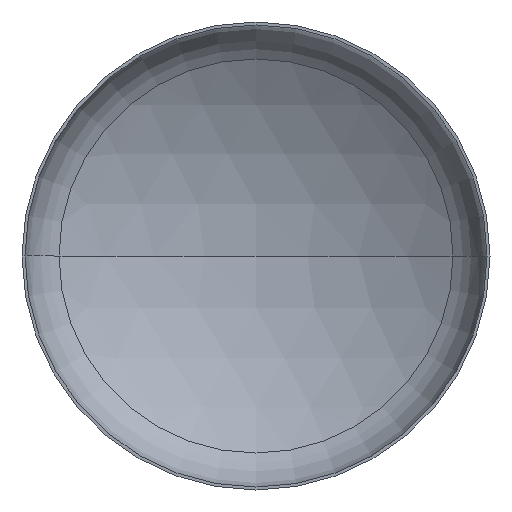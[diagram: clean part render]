
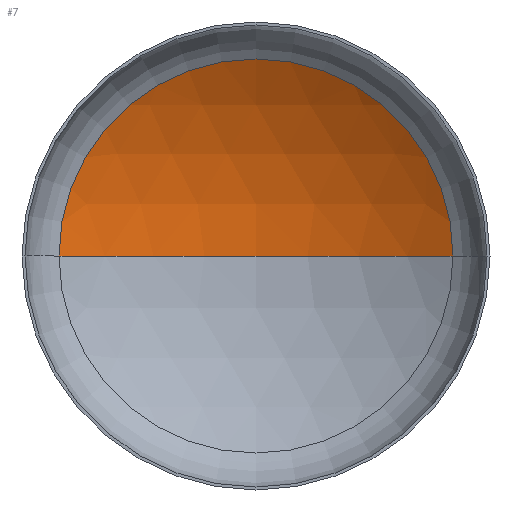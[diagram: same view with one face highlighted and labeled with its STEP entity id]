
A CAD part, front view. The second image highlights one B-rep face of the part: STEP entity #7.
In plain terms, the highlighted spherical face has radius 2400 mm.
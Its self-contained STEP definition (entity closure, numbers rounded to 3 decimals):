
#7 = ADVANCED_FACE ( 'NONE', ( #154 ), #120, .F. ) ;
#8 = CARTESIAN_POINT ( 'NONE',  ( 0., -1589.594, 0. ) ) ;
#23 = DIRECTION ( 'NONE',  ( 1., 0., 0. ) ) ;
#30 = ORIENTED_EDGE ( 'NONE', *, *, #129, .F. ) ;
#38 = CARTESIAN_POINT ( 'NONE',  ( 1263.093, 451.141, 0. ) ) ;
#40 = AXIS2_PLACEMENT_3D ( 'NONE', #231, #143, #165 ) ;
#43 = AXIS2_PLACEMENT_3D ( 'NONE', #8, #258, #201 ) ;
#44 = AXIS2_PLACEMENT_3D ( 'NONE', #391, #86, #23 ) ;
#58 = VERTEX_POINT ( 'NONE', #210 ) ;
#73 = EDGE_LOOP ( 'NONE', ( #30, #85, #347 ) ) ;
#80 = AXIS2_PLACEMENT_3D ( 'NONE', #219, #251, #248 ) ;
#85 = ORIENTED_EDGE ( 'NONE', *, *, #124, .T. ) ;
#86 = DIRECTION ( 'NONE',  ( 0., -1., 0. ) ) ;
#120 = SPHERICAL_SURFACE ( 'NONE', #80, 2400. ) ;
#123 = EDGE_CURVE ( 'NONE', #275, #58, #408, .T. ) ;
#124 = EDGE_CURVE ( 'NONE', #237, #275, #266, .T. ) ;
#129 = EDGE_CURVE ( 'NONE', #237, #58, #193, .T. ) ;
#143 = DIRECTION ( 'NONE',  ( 0., 0., 1. ) ) ;
#154 = FACE_OUTER_BOUND ( 'NONE', #73, .T. ) ;
#165 = DIRECTION ( 'NONE',  ( 1., 0., 0. ) ) ;
#193 = CIRCLE ( 'NONE', #40, 2400. ) ;
#199 = CARTESIAN_POINT ( 'NONE',  ( 0., 810.406, 0. ) ) ;
#201 = DIRECTION ( 'NONE',  ( -1., 0., 0. ) ) ;
#210 = CARTESIAN_POINT ( 'NONE',  ( -1263.093, 451.141, 0. ) ) ;
#219 = CARTESIAN_POINT ( 'NONE',  ( 0., -1589.594, 0. ) ) ;
#231 = CARTESIAN_POINT ( 'NONE',  ( 0., -1589.594, 0. ) ) ;
#237 = VERTEX_POINT ( 'NONE', #199 ) ;
#248 = DIRECTION ( 'NONE',  ( -1., 0., 0. ) ) ;
#251 = DIRECTION ( 'NONE',  ( 0., 0., -1. ) ) ;
#258 = DIRECTION ( 'NONE',  ( 0., 0., -1. ) ) ;
#266 = CIRCLE ( 'NONE', #43, 2400. ) ;
#275 = VERTEX_POINT ( 'NONE', #38 ) ;
#347 = ORIENTED_EDGE ( 'NONE', *, *, #123, .T. ) ;
#391 = CARTESIAN_POINT ( 'NONE',  ( 0., 451.141, 0. ) ) ;
#408 = CIRCLE ( 'NONE', #44, 1263.093 ) ;
